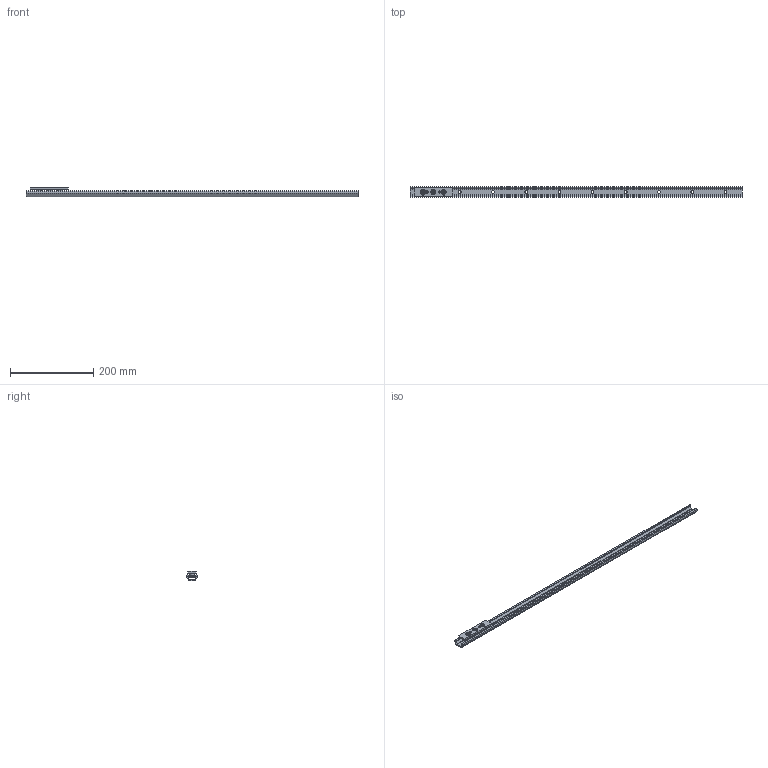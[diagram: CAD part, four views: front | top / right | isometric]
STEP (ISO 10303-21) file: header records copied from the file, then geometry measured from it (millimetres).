
FILE_DESCRIPTION( ( 'STEP AP214' ), '1' );
FILE_NAME( 'p:/temp/worker_26/temp/exporttempdir_496_108_DTUWI/format_0/TEN26-0800-CEN26-92.stp', '2020-05-08T18:37:48', ( 'License CC BY-ND 4.0' ), ( 'CADENAS' ), ' ', 'PARTsolutions', ' ' );
FILE_SCHEMA( ( 'AUTOMOTIVE_DESIGN { 1 0 10303 214 1 1 1 1 }' ) );
Length unit declared in the file: millimetre
Products named in the file (6): TEN26-0800-CEN26-92; _TEN 26-800; _CEN26-92_1; _RLN26(11.2_M5); _RLA26(11.2_M5); _LAN-26
Assembly tree (8 placements, depth 2):
  TEN26-0800-CEN26-92
    _TEN 26-800
    _CEN26-92_1
    _RLN26(11.2_M5)  x2
    _RLA26(11.2_M5)
    _LAN-26  x3
Bounding box: 800 x 26 x 22 mm (x, y, z)
Volume: 96243.4 mm3; surface area: 80162 mm2
Topology: 8 solids, 8 shells, 243 faces, 531 edges, 331 vertices
Faces by surface type: plane 131, cylinder 79, cone 24, bspline 9
Full cylindrical faces by diameter (mm): 2.5 x2, 4.134 x5, 4.5 x3, 5 x6, 6.5 x10, 9.3 x3, 11.2 x6, 11.6 x6, 15.7 x6, 16.7 x6
Entity records: 5678 total; most frequent: CARTESIAN_POINT 835, DIRECTION 772, ORIENTED_EDGE 574, AXIS2_PLACEMENT_3D 322, EDGE_CURVE 287, EDGE_LOOP 272, VERTEX_POINT 217, FACE_OUTER_BOUND 204
